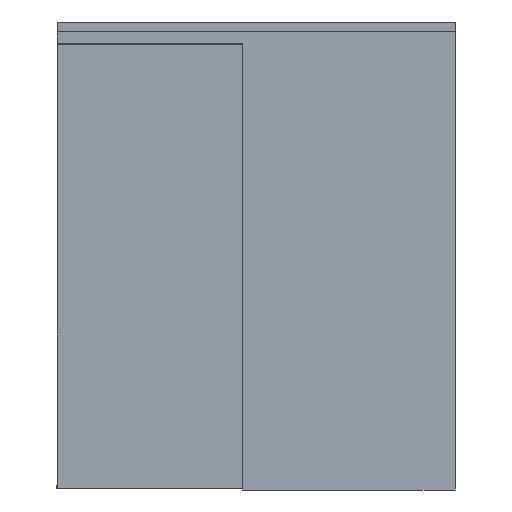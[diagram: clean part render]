
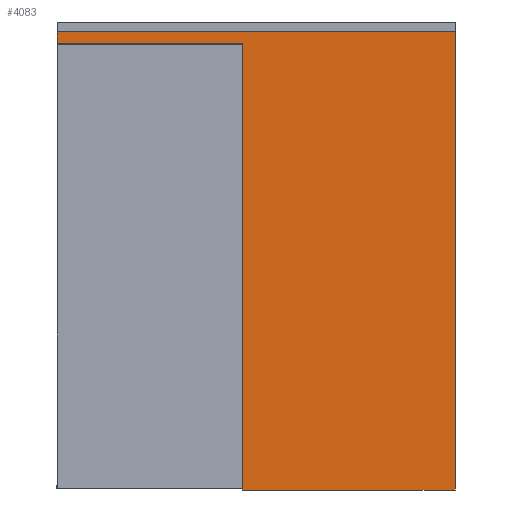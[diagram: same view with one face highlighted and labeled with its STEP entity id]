
A CAD part, front view. The second image highlights one B-rep face of the part: STEP entity #4083.
In plain terms, the highlighted planar face has unit normal (0, -1, 0).
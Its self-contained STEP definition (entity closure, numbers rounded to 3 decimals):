
#4083=ADVANCED_FACE('',(#8460),#8461,.F.);
#8460=FACE_OUTER_BOUND('',#13052,.T.);
#8461=PLANE('',#13053);
#13052=EDGE_LOOP('',(#24201,#24202,#24203,#24204,#24205,#24206));
#13053=AXIS2_PLACEMENT_3D('',#24207,#24208,#24209);
#24201=ORIENTED_EDGE('',*,*,#31330,.T.);
#24202=ORIENTED_EDGE('',*,*,#31320,.F.);
#24203=ORIENTED_EDGE('',*,*,#31324,.F.);
#24204=ORIENTED_EDGE('',*,*,#31328,.T.);
#24205=ORIENTED_EDGE('',*,*,#31331,.F.);
#24206=ORIENTED_EDGE('',*,*,#31332,.F.);
#24207=CARTESIAN_POINT('',(0.0,-46.5,2333.0));
#24208=DIRECTION('',(0.0,1.0,-0.0));
#24209=DIRECTION('',(0.0,0.0,1.0));
#31320=EDGE_CURVE('',#38352,#38347,#38354,.T.);
#31324=EDGE_CURVE('',#38358,#38352,#38360,.T.);
#31328=EDGE_CURVE('',#38358,#38364,#38366,.T.);
#31330=EDGE_CURVE('',#38368,#38347,#38369,.T.);
#31331=EDGE_CURVE('',#38370,#38364,#38371,.T.);
#31332=EDGE_CURVE('',#38368,#38370,#38372,.T.);
#38347=VERTEX_POINT('',#47890);
#38352=VERTEX_POINT('',#47897);
#38354=LINE('',#47900,#47901);
#38358=VERTEX_POINT('',#47906);
#38360=LINE('',#47909,#47910);
#38364=VERTEX_POINT('',#47915);
#38366=LINE('',#47918,#47919);
#38368=VERTEX_POINT('',#47921);
#38369=LINE('',#47922,#47923);
#38370=VERTEX_POINT('',#47924);
#38371=LINE('',#47925,#47926);
#38372=LINE('',#47927,#47928);
#47890=CARTESIAN_POINT('',(955.0,-46.5,2299.5));
#47897=CARTESIAN_POINT('',(955.0,-46.5,0.0));
#47900=CARTESIAN_POINT('',(955.0,-46.5,7.0));
#47901=VECTOR('',#55233,1.0);
#47906=CARTESIAN_POINT('',(2050.0,-46.5,0.0));
#47909=CARTESIAN_POINT('',(1327.5,-46.5,0.0));
#47910=VECTOR('',#55236,1.0);
#47915=CARTESIAN_POINT('',(2050.0,-46.5,2360.0));
#47918=CARTESIAN_POINT('',(2050.0,-46.5,7.0));
#47919=VECTOR('',#55239,1.0);
#47921=CARTESIAN_POINT('',(0.0,-46.5,2299.5));
#47922=CARTESIAN_POINT('',(0.0,-46.5,2299.5));
#47923=VECTOR('',#55240,1.0);
#47924=CARTESIAN_POINT('',(0.0,-46.5,2360.0));
#47925=CARTESIAN_POINT('',(1270.0,-46.5,2360.0));
#47926=VECTOR('',#55241,1.0);
#47927=CARTESIAN_POINT('',(0.0,-46.5,2301.0));
#47928=VECTOR('',#55242,1.0);
#55233=DIRECTION('',(0.0,0.0,1.0));
#55236=DIRECTION('',(-1.0,0.0,0.0));
#55239=DIRECTION('',(0.0,0.0,1.0));
#55240=DIRECTION('',(1.0,0.0,0.0));
#55241=DIRECTION('',(1.0,0.0,0.0));
#55242=DIRECTION('',(0.0,0.0,1.0));
